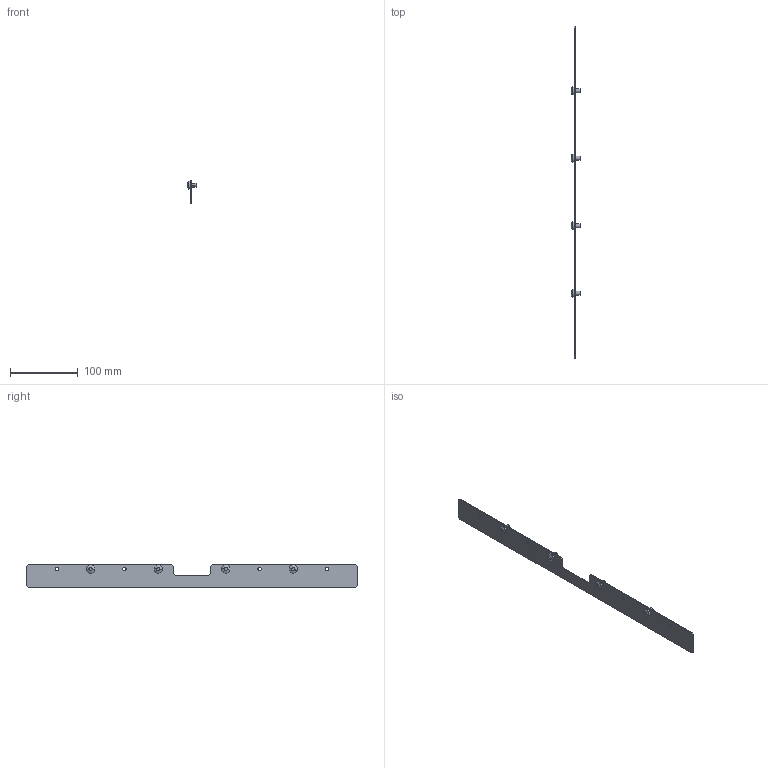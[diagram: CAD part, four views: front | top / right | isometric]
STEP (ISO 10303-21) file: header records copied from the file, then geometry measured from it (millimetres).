
FILE_DESCRIPTION (( 'STEP AP214' ), '1' );
FILE_NAME ('FO-00-BPS1-060 Ïëàíêà ñåêöèîíèðîâàíèÿ êîìïåíñàöèîííàÿ òèï 1 (12,5ìì) â øêàô øèðèíîé 600 ìì.STEP', '2025-08-12T11:57:09', ( '' ), ( '' ), 'SwSTEP 2.0', 'SolidWorks 2023', '' );
FILE_SCHEMA (( 'AUTOMOTIVE_DESIGN' ));
Length unit declared in the file: millimetre
Products named in the file (1): FO-00-BPS1-060 Планка секционирования компенсационная тип 1 (12,5мм) в шкаф шириной 600 мм
Bounding box: 14.34 x 491.5 x 35.5 mm (x, y, z)
Volume: 26914.7 mm3; surface area: 35943.3 mm2
Topology: 1 solids, 1 shells, 142 faces, 372 edges, 240 vertices
Faces by surface type: cylinder 92, plane 26, torus 8, cone 8, sphere 8
Entity records: 4571 total; most frequent: CARTESIAN_POINT 1023, DIRECTION 746, ORIENTED_EDGE 744, EDGE_CURVE 372, AXIS2_PLACEMENT_3D 299, VERTEX_POINT 240, EDGE_LOOP 158, CIRCLE 156
